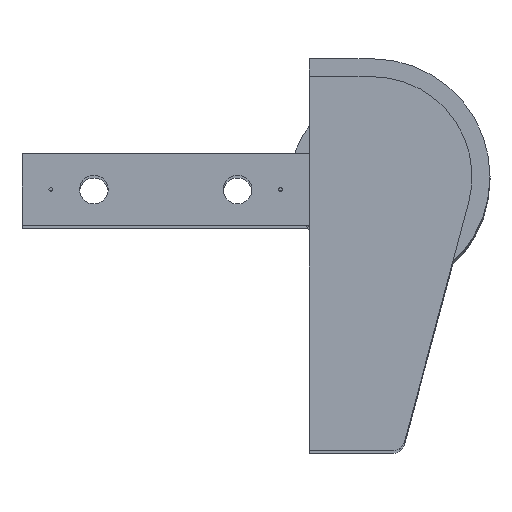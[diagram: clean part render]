
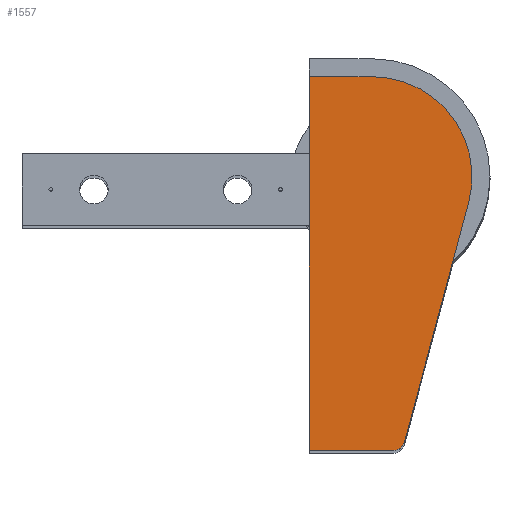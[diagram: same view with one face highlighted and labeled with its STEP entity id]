
A CAD part, top view. The second image highlights one B-rep face of the part: STEP entity #1557.
In plain terms, the highlighted planar face has unit normal (0, 0, 1).
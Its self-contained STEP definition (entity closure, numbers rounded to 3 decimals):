
#43 = VECTOR ( 'NONE', #925, 1000. ) ;
#82 = AXIS2_PLACEMENT_3D ( 'NONE', #1769, #689, #1057 ) ;
#142 = AXIS2_PLACEMENT_3D ( 'NONE', #999, #2042, #1690 ) ;
#150 = EDGE_CURVE ( 'NONE', #1103, #2206, #420, .T. ) ;
#279 = CARTESIAN_POINT ( 'NONE',  ( 3249.7, -5., 234. ) ) ;
#285 = FACE_OUTER_BOUND ( 'NONE', #1127, .T. ) ;
#311 = ORIENTED_EDGE ( 'NONE', *, *, #1538, .T. ) ;
#420 = LINE ( 'NONE', #2199, #43 ) ;
#433 = EDGE_CURVE ( 'NONE', #1503, #811, #1598, .T. ) ;
#489 = CARTESIAN_POINT ( 'NONE',  ( 3267.2, -5., 234. ) ) ;
#522 = PLANE ( 'NONE',  #1724 ) ;
#534 = VERTEX_POINT ( 'NONE', #1367 ) ;
#689 = DIRECTION ( 'NONE',  ( 0., 0., 1. ) ) ;
#811 = VERTEX_POINT ( 'NONE', #2187 ) ;
#819 = DIRECTION ( 'NONE',  ( 1., 0., 0. ) ) ;
#923 = DIRECTION ( 'NONE',  ( 0.259, 0.966, 0. ) ) ;
#925 = DIRECTION ( 'NONE',  ( -1., 0., 0. ) ) ;
#957 = EDGE_CURVE ( 'NONE', #1124, #534, #1326, .T. ) ;
#966 = ORIENTED_EDGE ( 'NONE', *, *, #957, .T. ) ;
#999 = CARTESIAN_POINT ( 'NONE',  ( 3267.2, -32.8, 234. ) ) ;
#1006 = EDGE_CURVE ( 'NONE', #2206, #1503, #2225, .T. ) ;
#1015 = CARTESIAN_POINT ( 'NONE',  ( 3249.7, -109., 234. ) ) ;
#1037 = ORIENTED_EDGE ( 'NONE', *, *, #1006, .T. ) ;
#1057 = DIRECTION ( 'NONE',  ( -1., 0., 0. ) ) ;
#1103 = VERTEX_POINT ( 'NONE', #489 ) ;
#1124 = VERTEX_POINT ( 'NONE', #1773 ) ;
#1127 = EDGE_LOOP ( 'NONE', ( #1552, #1977, #1037, #1789, #311, #966 ) ) ;
#1326 = LINE ( 'NONE', #1998, #2278 ) ;
#1367 = CARTESIAN_POINT ( 'NONE',  ( 3294.053, -39.995, 234. ) ) ;
#1429 = CIRCLE ( 'NONE', #142, 27.8 ) ;
#1464 = CIRCLE ( 'NONE', #82, 3. ) ;
#1503 = VERTEX_POINT ( 'NONE', #2112 ) ;
#1538 = EDGE_CURVE ( 'NONE', #811, #1124, #1464, .T. ) ;
#1552 = ORIENTED_EDGE ( 'NONE', *, *, #2121, .T. ) ;
#1557 = ADVANCED_FACE ( 'NONE', ( #285 ), #522, .T. ) ;
#1598 = LINE ( 'NONE', #1015, #1964 ) ;
#1647 = DIRECTION ( 'NONE',  ( 0., 0., 1. ) ) ;
#1690 = DIRECTION ( 'NONE',  ( -1., 0., 0. ) ) ;
#1724 = AXIS2_PLACEMENT_3D ( 'NONE', #2127, #1647, #1848 ) ;
#1765 = VECTOR ( 'NONE', #2063, 1000. ) ;
#1769 = CARTESIAN_POINT ( 'NONE',  ( 3273.261, -106., 234. ) ) ;
#1773 = CARTESIAN_POINT ( 'NONE',  ( 3276.159, -106.776, 234. ) ) ;
#1789 = ORIENTED_EDGE ( 'NONE', *, *, #433, .T. ) ;
#1848 = DIRECTION ( 'NONE',  ( 1., 0., 0. ) ) ;
#1923 = CARTESIAN_POINT ( 'NONE',  ( 3249.7, -46.4, 234. ) ) ;
#1964 = VECTOR ( 'NONE', #819, 1000. ) ;
#1977 = ORIENTED_EDGE ( 'NONE', *, *, #150, .T. ) ;
#1998 = CARTESIAN_POINT ( 'NONE',  ( 3276.159, -106.776, 234. ) ) ;
#2042 = DIRECTION ( 'NONE',  ( 0., 0., 1. ) ) ;
#2063 = DIRECTION ( 'NONE',  ( 0., -1., 0. ) ) ;
#2112 = CARTESIAN_POINT ( 'NONE',  ( 3249.7, -109., 234. ) ) ;
#2121 = EDGE_CURVE ( 'NONE', #534, #1103, #1429, .T. ) ;
#2127 = CARTESIAN_POINT ( 'NONE',  ( 3273.261, -106., 234. ) ) ;
#2187 = CARTESIAN_POINT ( 'NONE',  ( 3273.261, -109., 234. ) ) ;
#2199 = CARTESIAN_POINT ( 'NONE',  ( 3273.261, -5., 234. ) ) ;
#2206 = VERTEX_POINT ( 'NONE', #279 ) ;
#2225 = LINE ( 'NONE', #1923, #1765 ) ;
#2278 = VECTOR ( 'NONE', #923, 1000. ) ;
